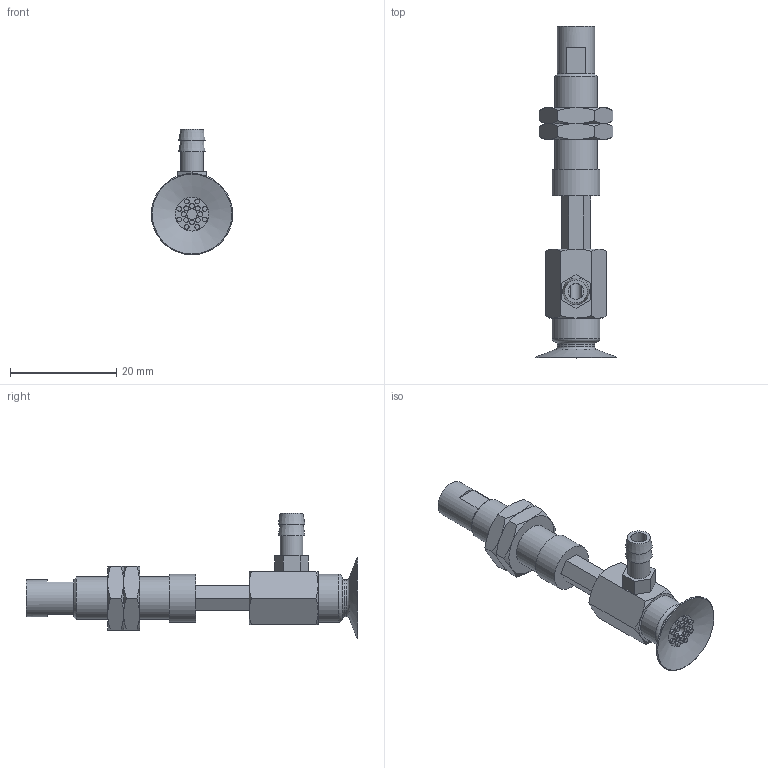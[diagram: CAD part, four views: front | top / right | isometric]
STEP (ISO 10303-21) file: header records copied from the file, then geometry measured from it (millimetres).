
FILE_DESCRIPTION(('STEP AP203'),'1');
FILE_NAME('-T.stp','2025-03-13T03:04:43',(' '),(' '),'Spatial InterOp 3D',' ',' ');
FILE_SCHEMA(('CONFIG_CONTROL_DESIGN'));
Length unit declared in the file: millimetre
Products named in the file (7): BNABPAYH-15A-10-※-T; NAPATH-10A-10--M; NAPATH-10A-10--F; Nut-10A-S; CONNECTOR-10A-10-PA; CONNECTOR-10A-3-T-PA; BPAG-15A-※
Assembly tree (7 placements, depth 2):
  BNABPAYH-15A-10-※-T
    NAPATH-10A-10--M
    NAPATH-10A-10--F
    Nut-10A-S  x2
    CONNECTOR-10A-10-PA
    CONNECTOR-10A-3-T-PA
    BPAG-15A-※
Bounding box: 15.3 x 62.5 x 23.65 mm (x, y, z)
Volume: 3700.5 mm3; surface area: 4867.8 mm2
Topology: 7 solids, 7 shells, 188 faces, 382 edges, 237 vertices
Faces by surface type: plane 91, cone 53, cylinder 35, torus 9
Full cylindrical faces by diameter (mm): 0.9 x16, 2 x2, 3 x1, 4 x2, 4.134 x2, 4.3 x1, 5 x2, 6 x2, 7 x2, 7.188 x2, 8 x1, 9 x2
Entity records: 4546 total; most frequent: CARTESIAN_POINT 991, DIRECTION 682, ORIENTED_EDGE 538, AXIS2_PLACEMENT_3D 294, EDGE_CURVE 269, EDGE_LOOP 262, FACE_OUTER_BOUND 208, VERTEX_POINT 201
